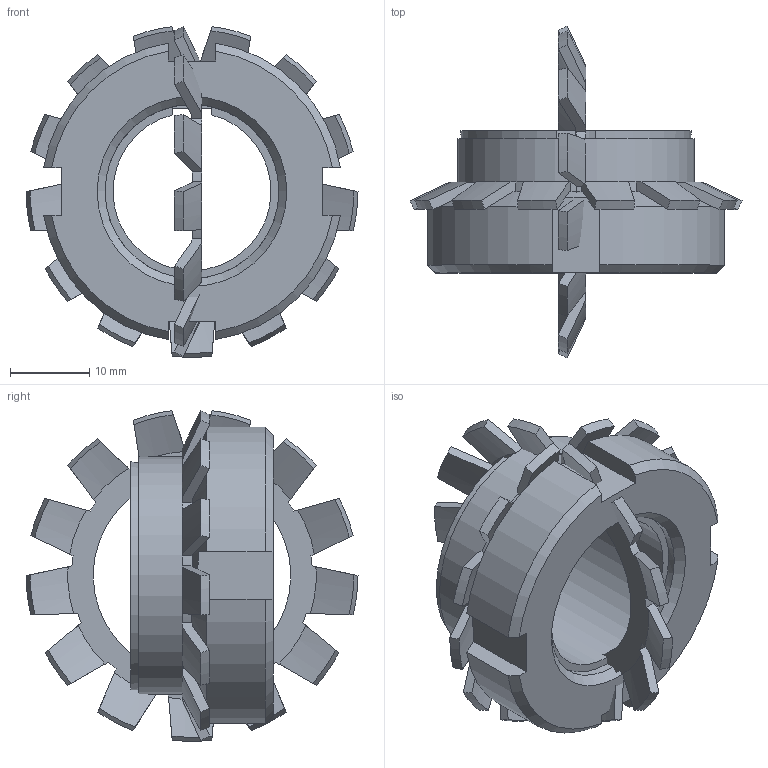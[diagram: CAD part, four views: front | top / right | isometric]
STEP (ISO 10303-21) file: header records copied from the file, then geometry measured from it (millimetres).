
FILE_DESCRIPTION( ( 'Unknown' ), '1' );
FILE_NAME( 'C:/Dokumente und Einstellungen/Sven/Desktop/homepage/cad - homepage/KBS51/KBS 51 - 20 x 30.stp', 'Unknown', ( 'Unknown' ), ( 'Unknown' ), 'XStep 1.0', 'Unknown', ' ' );
FILE_SCHEMA( ( 'automotive_design' ) );
Length unit declared in the file: millimetre
Products named in the file (3): Assem1; KBS 51 - 20 x 30; 08570053_locking_plate_din_5406_mb_5_2_14a
Bounding box: 42 x 42 x 41.83 mm (x, y, z)
Volume: 21587.1 mm3; surface area: 12808.6 mm2
Topology: 4 solids, 4 shells, 240 faces, 688 edges, 456 vertices
Faces by surface type: plane 104, cone 94, cylinder 42
Full cylindrical faces by diameter (mm): 22 x2, 30 x2
Entity records: 4268 total; most frequent: CARTESIAN_POINT 879, ORIENTED_EDGE 676, DIRECTION 640, EDGE_CURVE 338, AXIS2_PLACEMENT_3D 253, VERTEX_POINT 226, LINE 134, VECTOR 134
